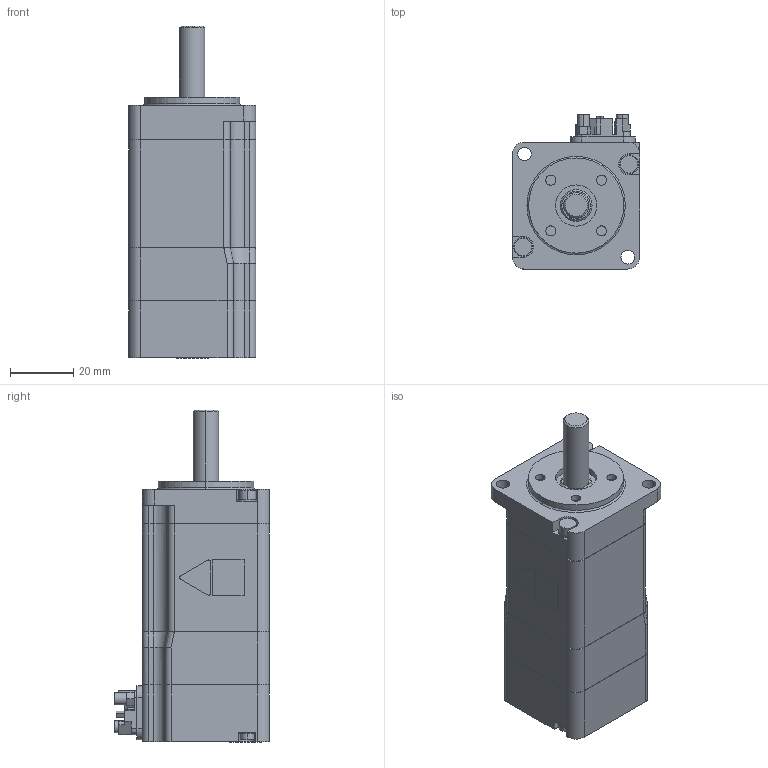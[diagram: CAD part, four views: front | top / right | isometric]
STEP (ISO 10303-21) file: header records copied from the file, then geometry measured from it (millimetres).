
FILE_DESCRIPTION (( 'STEP AP203' ), '1' );
FILE_NAME ('sgmxj_c2aua21a1.STEP', '2021-01-13T08:10:44', ( '' ), ( '' ), 'SwSTEP 2.0', 'SolidWorks 2016', '' );
FILE_SCHEMA (( 'CONFIG_CONTROL_DESIGN' ));
Length unit declared in the file: millimetre
Products named in the file (1): sgmxj_c2aua21a1
Bounding box: 40.1 x 48.8 x 104.6 mm (x, y, z)
Volume: 121438.9 mm3; surface area: 18577.6 mm2
Topology: 1 solids, 1 shells, 339 faces, 893 edges, 593 vertices
Faces by surface type: plane 198, cylinder 124, bspline 11, cone 4, torus 2
Entity records: 10823 total; most frequent: CARTESIAN_POINT 2200, ORIENTED_EDGE 1786, DIRECTION 1763, EDGE_CURVE 893, VECTOR 601, LINE 601, VERTEX_POINT 593, AXIS2_PLACEMENT_3D 581
